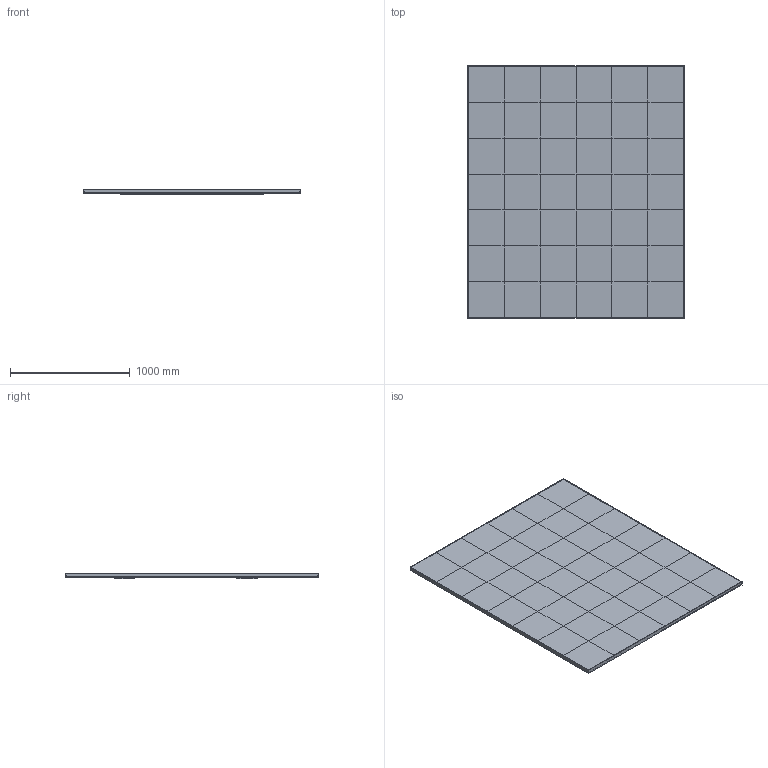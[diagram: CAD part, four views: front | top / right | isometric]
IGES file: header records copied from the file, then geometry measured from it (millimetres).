
Start section: SolidWorks IGES file using analytic representation for surfaces
Global section: file name: \\UTENTI\Dati Utenti\Tecnico\DC\2D - 3D per sito\3D\DeCastelli-3D-Arazzi Re.igs; native system: SolidWorks 2022; preprocessor: SolidWorks 2022; author: Silviad; date: 240711.172307; units: millimetre
Bounding box: 1808 x 2108 x 46 mm (x, y, z)
Surface area: 8831574.7 mm2 (no closed solid volume)
Topology: 0 solids, 0 shells, 168 faces, 3846 edges, 3846 vertices
Faces by surface type: bspline 114, revolution 54
